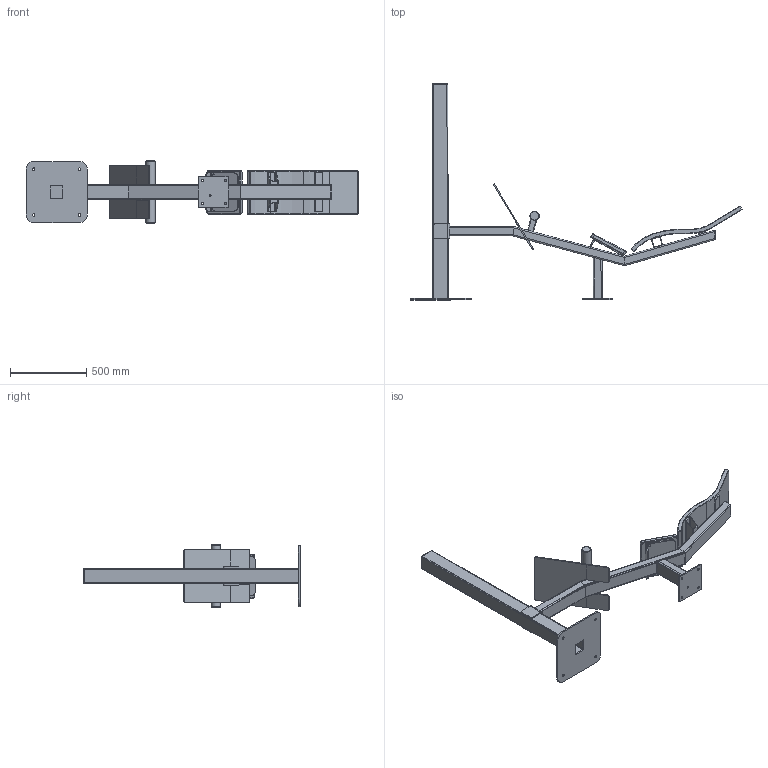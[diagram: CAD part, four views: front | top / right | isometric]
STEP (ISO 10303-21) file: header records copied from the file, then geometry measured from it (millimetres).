
FILE_DESCRIPTION(/* description */ (''),/* implementation_level */ '2;1');
FILE_NAME(/* name */ 'OG90_3D_Low.step',/* time_stamp */ '2025-11-11T16:06:53+02:00',/* author */ (''),/* organization */ (''),/* preprocessor_version */ 'ST-DEVELOPER v20.1',/* originating_system */ 'Autodesk Translation Framework v14.21.0.0',/* authorisation */ '');
FILE_SCHEMA (('AUTOMOTIVE_DESIGN { 1 0 10303 214 3 1 1 }'));
Length unit declared in the file: millimetre
Products named in the file (1): OG90_3D_Low
Bounding box: 2171.8 x 1413.43 x 408 mm (x, y, z)
Volume: 16717281.2 mm3; surface area: 4219591.9 mm2
Topology: 20 solids, 20 shells, 327 faces, 799 edges, 512 vertices
Faces by surface type: plane 155, cylinder 140, torus 20, sphere 8, cone 4
Full cylindrical faces by diameter (mm): 10 x1, 14 x4, 16 x4, 53.1 x1, 56 x2, 60.3 x1
Entity records: 9777 total; most frequent: DIRECTION 1753, CARTESIAN_POINT 1707, ORIENTED_EDGE 1590, EDGE_CURVE 795, AXIS2_PLACEMENT_3D 638, VERTEX_POINT 512, LINE 477, VECTOR 477
